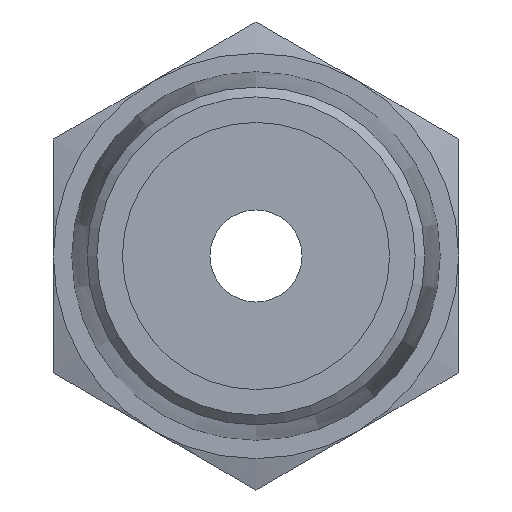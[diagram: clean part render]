
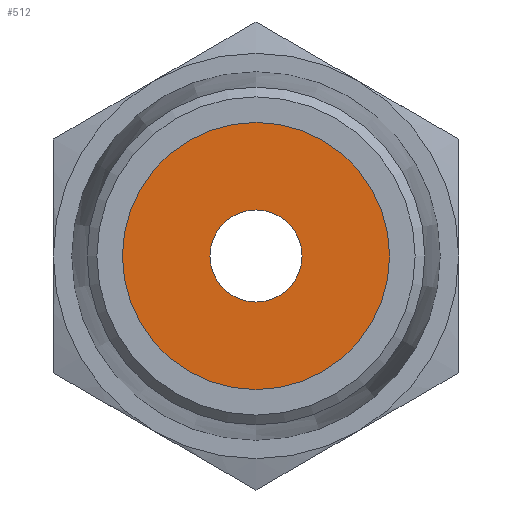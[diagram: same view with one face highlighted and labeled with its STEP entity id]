
A CAD part, front view. The second image highlights one B-rep face of the part: STEP entity #512.
In plain terms, the highlighted planar face has unit normal (0, -1, 0).
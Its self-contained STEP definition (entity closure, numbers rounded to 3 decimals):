
#44=FACE_BOUND('',#114,.T.);
#53=PLANE('',#584);
#73=FACE_OUTER_BOUND('',#113,.T.);
#113=EDGE_LOOP('',(#365));
#114=EDGE_LOOP('',(#366));
#195=CIRCLE('',#583,7.25);
#196=CIRCLE('',#585,2.5);
#228=VERTEX_POINT('',#830);
#229=VERTEX_POINT('',#834);
#278=EDGE_CURVE('',#228,#228,#195,.T.);
#279=EDGE_CURVE('',#229,#229,#196,.T.);
#365=ORIENTED_EDGE('',*,*,#278,.F.);
#366=ORIENTED_EDGE('',*,*,#279,.F.);
#512=ADVANCED_FACE('',(#73,#44),#53,.T.);
#583=AXIS2_PLACEMENT_3D('',#832,#678,#679);
#584=AXIS2_PLACEMENT_3D('',#833,#680,#681);
#585=AXIS2_PLACEMENT_3D('',#835,#682,#683);
#678=DIRECTION('center_axis',(0.,1.,0.));
#679=DIRECTION('ref_axis',(1.,0.,0.));
#680=DIRECTION('center_axis',(0.,-1.,0.));
#681=DIRECTION('ref_axis',(0.,0.,-1.));
#682=DIRECTION('center_axis',(0.,-1.,0.));
#683=DIRECTION('ref_axis',(1.,0.,0.));
#830=CARTESIAN_POINT('',(-7.25,2.,0.));
#832=CARTESIAN_POINT('Origin',(0.,2.,0.));
#833=CARTESIAN_POINT('Origin',(0.,2.,0.));
#834=CARTESIAN_POINT('',(-2.5,2.,0.));
#835=CARTESIAN_POINT('Origin',(0.,2.,0.));
